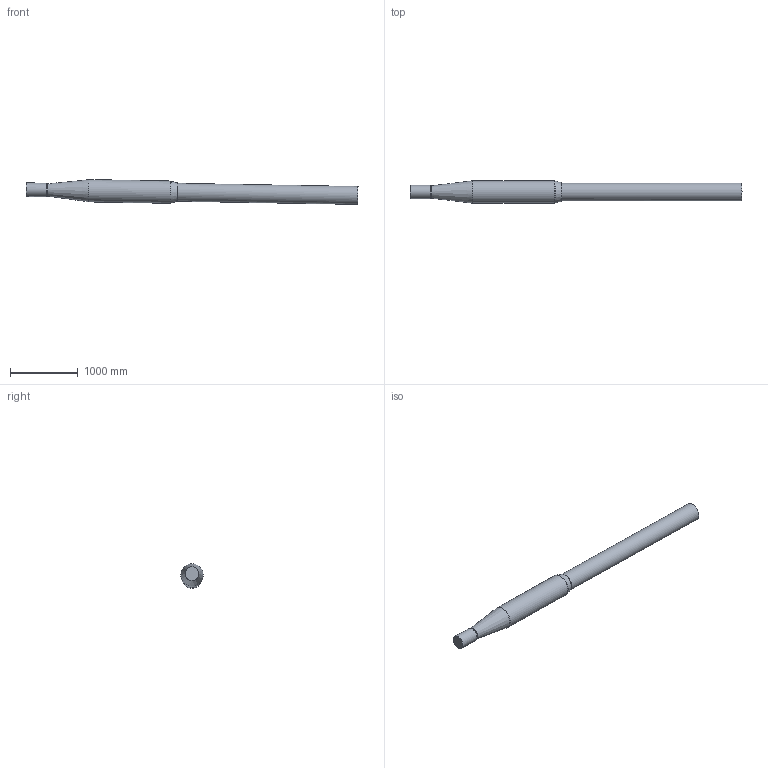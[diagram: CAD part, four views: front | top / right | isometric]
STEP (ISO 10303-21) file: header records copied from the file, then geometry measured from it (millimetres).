
FILE_DESCRIPTION(/* description */ (''),/* implementation_level */ '2;1');
FILE_NAME(/* name */ '14x22_sting_in_tunnel_1deg_mod.stp',/* time_stamp */ '2022-08-22T14:20:25-04:00',/* author */ (''),/* organization */ (''),/* preprocessor_version */ 'ST-DEVELOPER v16',/* originating_system */ 'SIEMENS PLM Software NX 10.0',/* authorisation */ '');
FILE_SCHEMA (('AP203_CONFIGURATION_CONTROLLED_3D_DESIGN_OF_MECHANICAL_PARTS_AND_ASSEMBLIES_MIM_LF { 1 0 10303 403 2 1 2}'));
Length unit declared in the file: millimetre
Products named in the file (1): sbry4E4082DFvl3g
Bounding box: 4894.1 x 328.8 x 365.57 mm (x, y, z)
Volume: 297479167.3 mm3; surface area: 4332914.5 mm2
Topology: 1 solids, 1 shells, 15 faces, 34 edges, 21 vertices
Faces by surface type: torus 6, cone 4, cylinder 3, plane 2
Full cylindrical faces by diameter (mm): 200.66 x1, 264.16 x1, 328.803 x1
Entity records: 386 total; most frequent: DIRECTION 60, CARTESIAN_POINT 44, AXIS2_PLACEMENT_3D 30, EDGE_LOOP 28, ORIENTED_EDGE 28, FACE_BOUND 26, ADVANCED_FACE 15, VERTEX_POINT 14
